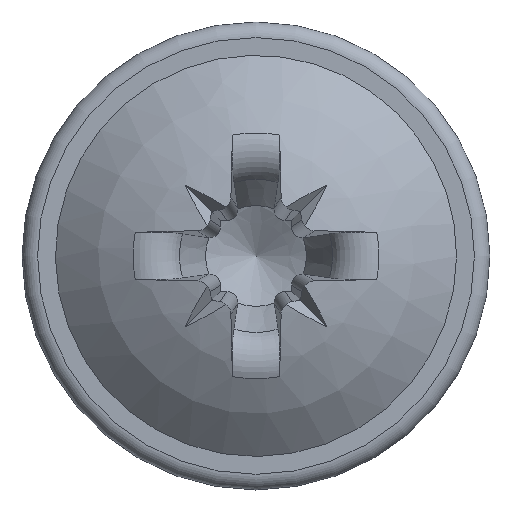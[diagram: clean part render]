
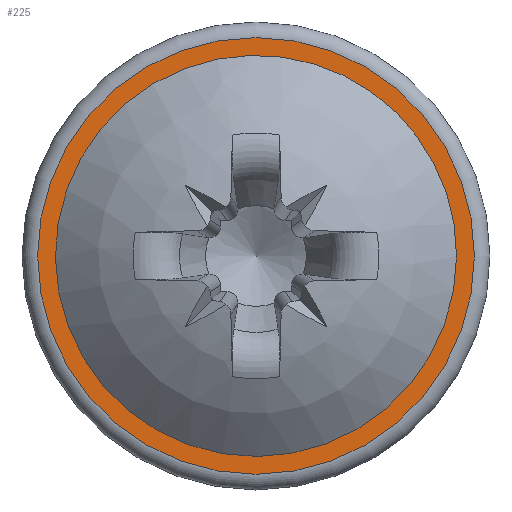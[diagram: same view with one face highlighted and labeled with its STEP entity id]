
A CAD part, top view. The second image highlights one B-rep face of the part: STEP entity #225.
In plain terms, the highlighted planar face has unit normal (0, 0, 1).
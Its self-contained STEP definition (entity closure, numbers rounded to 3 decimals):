
#154=PLANE('',#1261);
#199=FACE_BOUND('',#375,.T.);
#200=FACE_BOUND('',#376,.T.);
#225=ADVANCED_FACE('',(#199,#200),#154,.F.);
#375=EDGE_LOOP('',(#550));
#376=EDGE_LOOP('',(#551));
#446=CIRCLE('',#1226,1.714);
#474=CIRCLE('',#1260,1.867);
#550=ORIENTED_EDGE('',*,*,#1019,.T.);
#551=ORIENTED_EDGE('',*,*,#977,.F.);
#857=VERTEX_POINT('',#2135);
#897=VERTEX_POINT('',#2376);
#977=EDGE_CURVE('',#857,#857,#446,.T.);
#1019=EDGE_CURVE('',#897,#897,#474,.T.);
#1226=AXIS2_PLACEMENT_3D('',#2134,#1339,#1340);
#1260=AXIS2_PLACEMENT_3D('',#2375,#1407,#1408);
#1261=AXIS2_PLACEMENT_3D('',#2377,#1409,#1410);
#1339=DIRECTION('',(0.,0.,1.));
#1340=DIRECTION('',(1.,0.,0.));
#1407=DIRECTION('',(0.,0.,1.));
#1408=DIRECTION('',(-1.,0.,0.));
#1409=DIRECTION('',(0.,0.,-1.));
#1410=DIRECTION('',(-1.,0.,0.));
#2134=CARTESIAN_POINT('',(0.,0.,0.5));
#2135=CARTESIAN_POINT('',(1.714,0.,0.5));
#2375=CARTESIAN_POINT('',(0.,0.,0.5));
#2376=CARTESIAN_POINT('',(-1.867,0.,0.5));
#2377=CARTESIAN_POINT('',(0.,2.,0.5));
